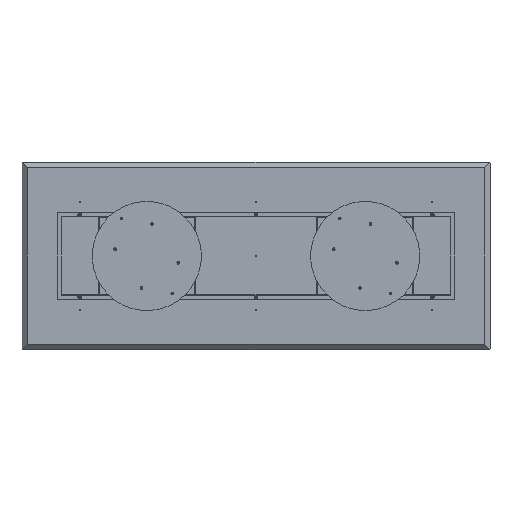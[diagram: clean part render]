
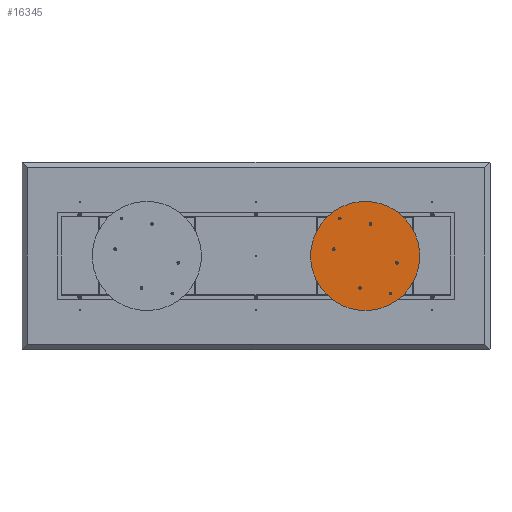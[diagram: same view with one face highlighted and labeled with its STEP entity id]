
A CAD part, front view. The second image highlights one B-rep face of the part: STEP entity #16345.
In plain terms, the highlighted planar face has unit normal (0, -1, 0).
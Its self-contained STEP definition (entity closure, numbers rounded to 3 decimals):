
#280 = CARTESIAN_POINT ( 'NONE',  ( 0., 0., -350. ) ) ;
#338 = VERTEX_POINT ( 'NONE', #1416 ) ;
#740 = ORIENTED_EDGE ( 'NONE', *, *, #5240, .F. ) ;
#1246 = CIRCLE ( 'NONE', #11037, 8.65 ) ;
#1315 = FACE_BOUND ( 'NONE', #9529, .T. ) ;
#1416 = CARTESIAN_POINT ( 'NONE',  ( -150., 0., 133.85 ) ) ;
#1450 = DIRECTION ( 'NONE',  ( 0., 0., -1. ) ) ;
#1485 = CARTESIAN_POINT ( 'NONE',  ( -290., 0., 0. ) ) ;
#1597 = DIRECTION ( 'NONE',  ( 0., -1., 0. ) ) ;
#1723 = DIRECTION ( 'NONE',  ( 0., 0., -1. ) ) ;
#1790 = DIRECTION ( 'NONE',  ( 0., 0., -1. ) ) ;
#1923 = CARTESIAN_POINT ( 'NONE',  ( 150., 0., 142.5 ) ) ;
#2097 = CARTESIAN_POINT ( 'NONE',  ( 150., 0., 133.85 ) ) ;
#2127 = EDGE_CURVE ( 'NONE', #18705, #8069, #23120, .T. ) ;
#2374 = DIRECTION ( 'NONE',  ( 0., 0., 1. ) ) ;
#2594 = VERTEX_POINT ( 'NONE', #16439 ) ;
#3468 = VERTEX_POINT ( 'NONE', #24116 ) ;
#3469 = DIRECTION ( 'NONE',  ( 0., 1., 0. ) ) ;
#3527 = DIRECTION ( 'NONE',  ( 0., -1., 0. ) ) ;
#3547 = EDGE_LOOP ( 'NONE', ( #10123, #14567 ) ) ;
#3682 = DIRECTION ( 'NONE',  ( 0., -1., 0. ) ) ;
#4030 = AXIS2_PLACEMENT_3D ( 'NONE', #14842, #5159, #1723 ) ;
#4410 = VERTEX_POINT ( 'NONE', #2097 ) ;
#4454 = DIRECTION ( 'NONE',  ( 0., -1., 0. ) ) ;
#4471 = EDGE_CURVE ( 'NONE', #338, #9043, #11047, .T. ) ;
#4585 = EDGE_LOOP ( 'NONE', ( #12654, #23417 ) ) ;
#4736 = DIRECTION ( 'NONE',  ( 0., 1., 0. ) ) ;
#4885 = DIRECTION ( 'NONE',  ( 0., -1., 0. ) ) ;
#5126 = CARTESIAN_POINT ( 'NONE',  ( -150., 0., 142.5 ) ) ;
#5159 = DIRECTION ( 'NONE',  ( 0., -1., 0. ) ) ;
#5240 = EDGE_CURVE ( 'NONE', #4410, #3468, #8747, .T. ) ;
#5241 = AXIS2_PLACEMENT_3D ( 'NONE', #9338, #3682, #9694 ) ;
#5710 = ORIENTED_EDGE ( 'NONE', *, *, #23444, .F. ) ;
#5874 = EDGE_CURVE ( 'NONE', #19246, #20394, #13448, .T. ) ;
#5913 = CARTESIAN_POINT ( 'NONE',  ( 290., 0., 0. ) ) ;
#6140 = CARTESIAN_POINT ( 'NONE',  ( -150., 0., 142.5 ) ) ;
#6180 = DIRECTION ( 'NONE',  ( 0., 1., 0. ) ) ;
#6292 = CARTESIAN_POINT ( 'NONE',  ( -290., 0., -8.65 ) ) ;
#6802 = EDGE_LOOP ( 'NONE', ( #740, #23148 ) ) ;
#6932 = AXIS2_PLACEMENT_3D ( 'NONE', #21514, #4736, #23474 ) ;
#7048 = VERTEX_POINT ( 'NONE', #6292 ) ;
#7079 = PLANE ( 'NONE',  #6932 ) ;
#7401 = ORIENTED_EDGE ( 'NONE', *, *, #5874, .F. ) ;
#7479 = DIRECTION ( 'NONE',  ( 0., -1., 0. ) ) ;
#7577 = CARTESIAN_POINT ( 'NONE',  ( -150., 0., -142.5 ) ) ;
#7609 = CIRCLE ( 'NONE', #5241, 8.65 ) ;
#7781 = CARTESIAN_POINT ( 'NONE',  ( -150., 0., 151.15 ) ) ;
#8005 = ORIENTED_EDGE ( 'NONE', *, *, #9784, .F. ) ;
#8069 = VERTEX_POINT ( 'NONE', #21827 ) ;
#8747 = CIRCLE ( 'NONE', #22008, 8.65 ) ;
#9043 = VERTEX_POINT ( 'NONE', #7781 ) ;
#9239 = CARTESIAN_POINT ( 'NONE',  ( -150., 0., -133.85 ) ) ;
#9338 = CARTESIAN_POINT ( 'NONE',  ( 150., 0., -142.5 ) ) ;
#9420 = CIRCLE ( 'NONE', #14094, 8.65 ) ;
#9440 = CARTESIAN_POINT ( 'NONE',  ( -150., 0., -151.15 ) ) ;
#9529 = EDGE_LOOP ( 'NONE', ( #5710, #23234 ) ) ;
#9646 = EDGE_LOOP ( 'NONE', ( #21691, #17347 ) ) ;
#9694 = DIRECTION ( 'NONE',  ( 0., 0., -1. ) ) ;
#9784 = EDGE_CURVE ( 'NONE', #20394, #19246, #7609, .T. ) ;
#9866 = AXIS2_PLACEMENT_3D ( 'NONE', #22623, #4454, #16653 ) ;
#10123 = ORIENTED_EDGE ( 'NONE', *, *, #4471, .F. ) ;
#10172 = AXIS2_PLACEMENT_3D ( 'NONE', #12522, #1597, #19980 ) ;
#10408 = EDGE_CURVE ( 'NONE', #13418, #16003, #17395, .T. ) ;
#10516 = FACE_BOUND ( 'NONE', #6802, .T. ) ;
#10765 = FACE_BOUND ( 'NONE', #18620, .T. ) ;
#10986 = DIRECTION ( 'NONE',  ( 0., -1., 0. ) ) ;
#11037 = AXIS2_PLACEMENT_3D ( 'NONE', #12842, #10986, #1790 ) ;
#11047 = CIRCLE ( 'NONE', #15352, 8.65 ) ;
#11478 = CARTESIAN_POINT ( 'NONE',  ( 0., 0., 0. ) ) ;
#11672 = AXIS2_PLACEMENT_3D ( 'NONE', #12491, #12742, #19948 ) ;
#11734 = DIRECTION ( 'NONE',  ( 0., -1., 0. ) ) ;
#11787 = CIRCLE ( 'NONE', #12580, 350. ) ;
#11928 = AXIS2_PLACEMENT_3D ( 'NONE', #7577, #3527, #13219 ) ;
#11990 = CIRCLE ( 'NONE', #19027, 8.65 ) ;
#12217 = EDGE_CURVE ( 'NONE', #15314, #7048, #11990, .T. ) ;
#12491 = CARTESIAN_POINT ( 'NONE',  ( -290., 0., 0. ) ) ;
#12522 = CARTESIAN_POINT ( 'NONE',  ( 290., 0., 0. ) ) ;
#12580 = AXIS2_PLACEMENT_3D ( 'NONE', #11478, #6180, #2374 ) ;
#12597 = AXIS2_PLACEMENT_3D ( 'NONE', #5913, #22815, #13532 ) ;
#12654 = ORIENTED_EDGE ( 'NONE', *, *, #2127, .F. ) ;
#12742 = DIRECTION ( 'NONE',  ( 0., -1., 0. ) ) ;
#12842 = CARTESIAN_POINT ( 'NONE',  ( -150., 0., -142.5 ) ) ;
#12896 = ORIENTED_EDGE ( 'NONE', *, *, #19415, .F. ) ;
#13115 = CARTESIAN_POINT ( 'NONE',  ( -290., 0., 8.65 ) ) ;
#13219 = DIRECTION ( 'NONE',  ( 0., 0., -1. ) ) ;
#13418 = VERTEX_POINT ( 'NONE', #9239 ) ;
#13448 = CIRCLE ( 'NONE', #4030, 8.65 ) ;
#13532 = DIRECTION ( 'NONE',  ( 0., 0., -1. ) ) ;
#13630 = ORIENTED_EDGE ( 'NONE', *, *, #12217, .F. ) ;
#14094 = AXIS2_PLACEMENT_3D ( 'NONE', #5126, #4885, #1450 ) ;
#14152 = CIRCLE ( 'NONE', #12597, 8.65 ) ;
#14194 = FACE_BOUND ( 'NONE', #23870, .T. ) ;
#14567 = ORIENTED_EDGE ( 'NONE', *, *, #22150, .F. ) ;
#14723 = CARTESIAN_POINT ( 'NONE',  ( 150., 0., -133.85 ) ) ;
#14842 = CARTESIAN_POINT ( 'NONE',  ( 150., 0., -142.5 ) ) ;
#14966 = DIRECTION ( 'NONE',  ( 0., 0., -1. ) ) ;
#15303 = CARTESIAN_POINT ( 'NONE',  ( 290., 0., -8.65 ) ) ;
#15314 = VERTEX_POINT ( 'NONE', #13115 ) ;
#15352 = AXIS2_PLACEMENT_3D ( 'NONE', #6140, #22804, #20973 ) ;
#16003 = VERTEX_POINT ( 'NONE', #9440 ) ;
#16276 = FACE_OUTER_BOUND ( 'NONE', #4585, .T. ) ;
#16345 = ADVANCED_FACE ( 'NONE', ( #10765, #18101, #14194, #1315, #10516, #18233, #16276 ), #7079, .F. ) ;
#16439 = CARTESIAN_POINT ( 'NONE',  ( 290., 0., 8.65 ) ) ;
#16653 = DIRECTION ( 'NONE',  ( 0., 0., -1. ) ) ;
#16812 = DIRECTION ( 'NONE',  ( 0., 0., 1. ) ) ;
#17347 = ORIENTED_EDGE ( 'NONE', *, *, #10408, .F. ) ;
#17395 = CIRCLE ( 'NONE', #11928, 8.65 ) ;
#17983 = CARTESIAN_POINT ( 'NONE',  ( 150., 0., -151.15 ) ) ;
#18069 = CIRCLE ( 'NONE', #9866, 8.65 ) ;
#18101 = FACE_BOUND ( 'NONE', #9646, .T. ) ;
#18233 = FACE_BOUND ( 'NONE', #3547, .T. ) ;
#18620 = EDGE_LOOP ( 'NONE', ( #12896, #13630 ) ) ;
#18705 = VERTEX_POINT ( 'NONE', #280 ) ;
#19027 = AXIS2_PLACEMENT_3D ( 'NONE', #1485, #7479, #14966 ) ;
#19246 = VERTEX_POINT ( 'NONE', #17983 ) ;
#19415 = EDGE_CURVE ( 'NONE', #7048, #15314, #23776, .T. ) ;
#19948 = DIRECTION ( 'NONE',  ( 0., 0., -1. ) ) ;
#19980 = DIRECTION ( 'NONE',  ( 0., 0., -1. ) ) ;
#20394 = VERTEX_POINT ( 'NONE', #14723 ) ;
#20734 = CIRCLE ( 'NONE', #10172, 8.65 ) ;
#20917 = DIRECTION ( 'NONE',  ( 0., 0., -1. ) ) ;
#20973 = DIRECTION ( 'NONE',  ( 0., 0., -1. ) ) ;
#21514 = CARTESIAN_POINT ( 'NONE',  ( 0., 0., 0. ) ) ;
#21542 = AXIS2_PLACEMENT_3D ( 'NONE', #22086, #3469, #16812 ) ;
#21682 = EDGE_CURVE ( 'NONE', #2594, #23627, #20734, .T. ) ;
#21691 = ORIENTED_EDGE ( 'NONE', *, *, #24027, .F. ) ;
#21827 = CARTESIAN_POINT ( 'NONE',  ( 0., 0., 350. ) ) ;
#22008 = AXIS2_PLACEMENT_3D ( 'NONE', #1923, #11734, #20917 ) ;
#22086 = CARTESIAN_POINT ( 'NONE',  ( 0., 0., 0. ) ) ;
#22150 = EDGE_CURVE ( 'NONE', #9043, #338, #9420, .T. ) ;
#22623 = CARTESIAN_POINT ( 'NONE',  ( 150., 0., 142.5 ) ) ;
#22804 = DIRECTION ( 'NONE',  ( 0., -1., 0. ) ) ;
#22815 = DIRECTION ( 'NONE',  ( 0., -1., 0. ) ) ;
#22877 = EDGE_CURVE ( 'NONE', #8069, #18705, #11787, .T. ) ;
#23120 = CIRCLE ( 'NONE', #21542, 350. ) ;
#23148 = ORIENTED_EDGE ( 'NONE', *, *, #23673, .F. ) ;
#23234 = ORIENTED_EDGE ( 'NONE', *, *, #21682, .F. ) ;
#23417 = ORIENTED_EDGE ( 'NONE', *, *, #22877, .F. ) ;
#23444 = EDGE_CURVE ( 'NONE', #23627, #2594, #14152, .T. ) ;
#23474 = DIRECTION ( 'NONE',  ( 0., 0., 1. ) ) ;
#23627 = VERTEX_POINT ( 'NONE', #15303 ) ;
#23673 = EDGE_CURVE ( 'NONE', #3468, #4410, #18069, .T. ) ;
#23776 = CIRCLE ( 'NONE', #11672, 8.65 ) ;
#23870 = EDGE_LOOP ( 'NONE', ( #7401, #8005 ) ) ;
#24027 = EDGE_CURVE ( 'NONE', #16003, #13418, #1246, .T. ) ;
#24116 = CARTESIAN_POINT ( 'NONE',  ( 150., 0., 151.15 ) ) ;
